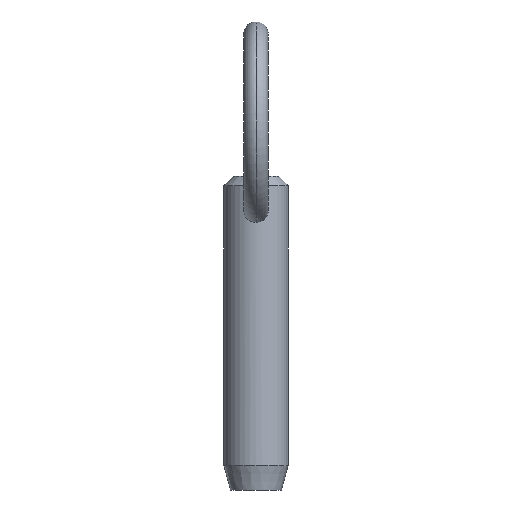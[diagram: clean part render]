
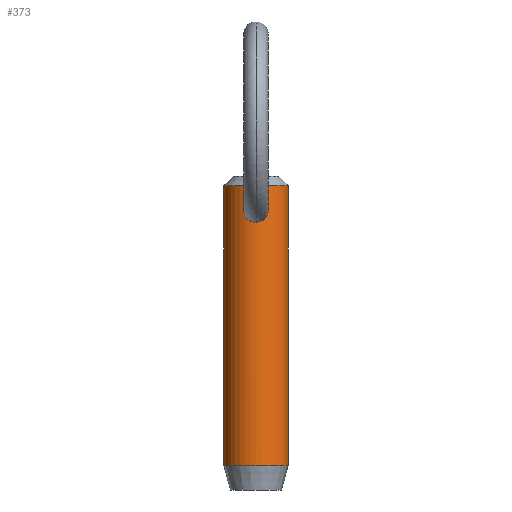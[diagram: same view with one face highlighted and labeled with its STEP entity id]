
A CAD part, front view. The second image highlights one B-rep face of the part: STEP entity #373.
In plain terms, the highlighted cylindrical face has radius 3.965 mm (diameter 7.93 mm), a partial arc.
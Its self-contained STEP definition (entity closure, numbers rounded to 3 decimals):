
#6 = AXIS2_PLACEMENT_3D ( 'NONE', #85, #403, #132 ) ;
#13 = EDGE_CURVE ( 'NONE', #35, #464, #435, .T. ) ;
#15 = CARTESIAN_POINT ( 'NONE',  ( -1.488, -3.675, 25.305 ) ) ;
#18 = CARTESIAN_POINT ( 'NONE',  ( -0.498, -3.935, 26.644 ) ) ;
#19 = DIRECTION ( 'NONE',  ( 1., 0., 0. ) ) ;
#31 = CARTESIAN_POINT ( 'NONE',  ( 1.028, -3.83, 23.915 ) ) ;
#32 = ORIENTED_EDGE ( 'NONE', *, *, #360, .T. ) ;
#33 = CARTESIAN_POINT ( 'NONE',  ( 0.205, -3.961, 26.734 ) ) ;
#35 = VERTEX_POINT ( 'NONE', #413 ) ;
#43 = AXIS2_PLACEMENT_3D ( 'NONE', #83, #485, #46 ) ;
#46 = DIRECTION ( 'NONE',  ( -1., 0., 0. ) ) ;
#47 = CARTESIAN_POINT ( 'NONE',  ( -0.957, -3.85, 23.841 ) ) ;
#55 = CARTESIAN_POINT ( 'NONE',  ( -3.965, 0., 28.05 ) ) ;
#68 = ORIENTED_EDGE ( 'NONE', *, *, #354, .T. ) ;
#69 = CARTESIAN_POINT ( 'NONE',  ( 1.291, -3.75, 25.883 ) ) ;
#71 = CARTESIAN_POINT ( 'NONE',  ( 0.949, -3.851, 23.849 ) ) ;
#75 = CARTESIAN_POINT ( 'NONE',  ( 0.925, -3.858, 26.368 ) ) ;
#83 = CARTESIAN_POINT ( 'NONE',  ( 0., 0., -6.52 ) ) ;
#85 = CARTESIAN_POINT ( 'NONE',  ( 0., 0., 22.9 ) ) ;
#92 = VERTEX_POINT ( 'NONE', #500 ) ;
#110 = CARTESIAN_POINT ( 'NONE',  ( 1.404, -3.708, 25.601 ) ) ;
#111 = CARTESIAN_POINT ( 'NONE',  ( 0.782, -3.888, 23.737 ) ) ;
#113 = CYLINDRICAL_SURFACE ( 'NONE', #6, 3.965 ) ;
#115 = CARTESIAN_POINT ( 'NONE',  ( 0.102, -3.965, 26.747 ) ) ;
#116 = ORIENTED_EDGE ( 'NONE', *, *, #310, .T. ) ;
#119 = CARTESIAN_POINT ( 'NONE',  ( 1.499, -3.671, 24.897 ) ) ;
#120 = LINE ( 'NONE', #479, #174 ) ;
#125 = VERTEX_POINT ( 'NONE', #183 ) ;
#128 = CARTESIAN_POINT ( 'NONE',  ( -0.925, -3.858, 26.368 ) ) ;
#130 = FACE_OUTER_BOUND ( 'NONE', #417, .T. ) ;
#131 = ORIENTED_EDGE ( 'NONE', *, *, #251, .T. ) ;
#132 = DIRECTION ( 'NONE',  ( -1., 0., 0. ) ) ;
#134 = B_SPLINE_CURVE_WITH_KNOTS ( 'NONE', 3,
 ( #154, #115, #33, #511, #470, #316, #75, #153, #69, #110, #315, #192, #351, #357, #119, #157, #235, #510, #273, #31, #71, #111, #394, #152, #193, #241 ),
 .UNSPECIFIED., .F., .F.,
 ( 4, 2, 2, 2, 2, 2, 2, 2, 2, 2, 2, 2, 4 ),
 ( 0.004, 0.005, 0.005, 0.005, 0.006, 0.006, 0.007, 0.007, 0.007, 0.008, 0.008, 0.008, 0.009 ),
 .UNSPECIFIED. ) ;
#136 = DIRECTION ( 'NONE',  ( 0., 0., -1. ) ) ;
#152 = CARTESIAN_POINT ( 'NONE',  ( 0.409, -3.948, 23.574 ) ) ;
#153 = CARTESIAN_POINT ( 'NONE',  ( 1.186, -3.786, 26.059 ) ) ;
#154 = CARTESIAN_POINT ( 'NONE',  ( 0., -3.965, 26.747 ) ) ;
#157 = CARTESIAN_POINT ( 'NONE',  ( 1.471, -3.682, 24.694 ) ) ;
#165 = DIRECTION ( 'NONE',  ( 0., 0., -1. ) ) ;
#169 = CARTESIAN_POINT ( 'NONE',  ( -0.788, -3.891, 23.728 ) ) ;
#174 = VECTOR ( 'NONE', #480, 1000. ) ;
#183 = CARTESIAN_POINT ( 'NONE',  ( 0., -3.965, 26.747 ) ) ;
#192 = CARTESIAN_POINT ( 'NONE',  ( 1.479, -3.679, 25.307 ) ) ;
#193 = CARTESIAN_POINT ( 'NONE',  ( 0.205, -3.965, 23.535 ) ) ;
#211 = CARTESIAN_POINT ( 'NONE',  ( -0.102, -3.965, 26.747 ) ) ;
#212 = CARTESIAN_POINT ( 'NONE',  ( -1.508, -3.667, 24.897 ) ) ;
#214 = FACE_BOUND ( 'NONE', #361, .T. ) ;
#221 = VECTOR ( 'NONE', #165, 1000. ) ;
#235 = CARTESIAN_POINT ( 'NONE',  ( 1.447, -3.692, 24.593 ) ) ;
#241 = CARTESIAN_POINT ( 'NONE',  ( 0., -3.965, 23.535 ) ) ;
#248 = CARTESIAN_POINT ( 'NONE',  ( 0., -3.965, 26.747 ) ) ;
#250 = CARTESIAN_POINT ( 'NONE',  ( -1.168, -3.79, 24.059 ) ) ;
#251 = EDGE_CURVE ( 'NONE', #125, #441, #134, .T. ) ;
#254 = CARTESIAN_POINT ( 'NONE',  ( -1.229, -3.77, 24.139 ) ) ;
#255 = CARTESIAN_POINT ( 'NONE',  ( 0., 0., 28.05 ) ) ;
#258 = ORIENTED_EDGE ( 'NONE', *, *, #13, .T. ) ;
#273 = CARTESIAN_POINT ( 'NONE',  ( 1.237, -3.77, 24.131 ) ) ;
#287 = CIRCLE ( 'NONE', #43, 3.965 ) ;
#288 = CARTESIAN_POINT ( 'NONE',  ( -0.41, -3.948, 23.574 ) ) ;
#289 = CARTESIAN_POINT ( 'NONE',  ( -1.29, -3.75, 25.885 ) ) ;
#310 = EDGE_CURVE ( 'NONE', #464, #92, #120, .T. ) ;
#315 = CARTESIAN_POINT ( 'NONE',  ( 1.434, -3.697, 25.505 ) ) ;
#316 = CARTESIAN_POINT ( 'NONE',  ( 0.77, -3.894, 26.5 ) ) ;
#328 = CARTESIAN_POINT ( 'NONE',  ( -1.48, -3.679, 24.689 ) ) ;
#333 = CARTESIAN_POINT ( 'NONE',  ( -1.379, -3.718, 24.403 ) ) ;
#351 = CARTESIAN_POINT ( 'NONE',  ( 1.493, -3.673, 25.204 ) ) ;
#354 = EDGE_CURVE ( 'NONE', #92, #437, #287, .T. ) ;
#357 = CARTESIAN_POINT ( 'NONE',  ( 1.503, -3.669, 24.999 ) ) ;
#360 = EDGE_CURVE ( 'NONE', #441, #125, #415, .T. ) ;
#361 = EDGE_LOOP ( 'NONE', ( #131, #32 ) ) ;
#365 = CARTESIAN_POINT ( 'NONE',  ( -0.77, -3.894, 26.5 ) ) ;
#368 = CARTESIAN_POINT ( 'NONE',  ( 3.965, 0., 22.9 ) ) ;
#373 = ADVANCED_FACE ( 'NONE', ( #130, #214 ), #113, .T. ) ;
#394 = CARTESIAN_POINT ( 'NONE',  ( 0.693, -3.905, 23.69 ) ) ;
#403 = DIRECTION ( 'NONE',  ( 0., 0., -1. ) ) ;
#405 = EDGE_CURVE ( 'NONE', #35, #437, #504, .T. ) ;
#406 = CARTESIAN_POINT ( 'NONE',  ( -0.206, -3.961, 26.734 ) ) ;
#412 = CARTESIAN_POINT ( 'NONE',  ( -1.186, -3.786, 26.06 ) ) ;
#413 = CARTESIAN_POINT ( 'NONE',  ( 3.965, 0., 28.05 ) ) ;
#415 = B_SPLINE_CURVE_WITH_KNOTS ( 'NONE', 3,
 ( #436, #473, #288, #169, #47, #250, #254, #482, #333, #328, #212, #15, #444, #289, #412, #128, #365, #18, #488, #406, #211, #248 ),
 .UNSPECIFIED., .F., .F.,
 ( 4, 2, 2, 2, 2, 2, 2, 2, 2, 2, 4 ),
 ( 0.009, 0.01, 0.01, 0.011, 0.011, 0.012, 0.012, 0.013, 0.013, 0.014, 0.014 ),
 .UNSPECIFIED. ) ;
#417 = EDGE_LOOP ( 'NONE', ( #477, #258, #116, #68 ) ) ;
#426 = AXIS2_PLACEMENT_3D ( 'NONE', #255, #136, #19 ) ;
#435 = CIRCLE ( 'NONE', #426, 3.965 ) ;
#436 = CARTESIAN_POINT ( 'NONE',  ( 0., -3.965, 23.535 ) ) ;
#437 = VERTEX_POINT ( 'NONE', #486 ) ;
#441 = VERTEX_POINT ( 'NONE', #443 ) ;
#443 = CARTESIAN_POINT ( 'NONE',  ( 0., -3.965, 23.535 ) ) ;
#444 = CARTESIAN_POINT ( 'NONE',  ( -1.441, -3.695, 25.508 ) ) ;
#464 = VERTEX_POINT ( 'NONE', #55 ) ;
#470 = CARTESIAN_POINT ( 'NONE',  ( 0.498, -3.935, 26.644 ) ) ;
#473 = CARTESIAN_POINT ( 'NONE',  ( -0.205, -3.965, 23.535 ) ) ;
#477 = ORIENTED_EDGE ( 'NONE', *, *, #405, .F. ) ;
#479 = CARTESIAN_POINT ( 'NONE',  ( -3.965, 0., 22.9 ) ) ;
#480 = DIRECTION ( 'NONE',  ( 0., 0., -1. ) ) ;
#482 = CARTESIAN_POINT ( 'NONE',  ( -1.335, -3.734, 24.31 ) ) ;
#485 = DIRECTION ( 'NONE',  ( 0., 0., 1. ) ) ;
#486 = CARTESIAN_POINT ( 'NONE',  ( 3.965, 0., -6.52 ) ) ;
#488 = CARTESIAN_POINT ( 'NONE',  ( -0.403, -3.946, 26.682 ) ) ;
#500 = CARTESIAN_POINT ( 'NONE',  ( -3.965, 0., -6.52 ) ) ;
#504 = LINE ( 'NONE', #368, #221 ) ;
#510 = CARTESIAN_POINT ( 'NONE',  ( 1.346, -3.73, 24.308 ) ) ;
#511 = CARTESIAN_POINT ( 'NONE',  ( 0.404, -3.946, 26.682 ) ) ;
